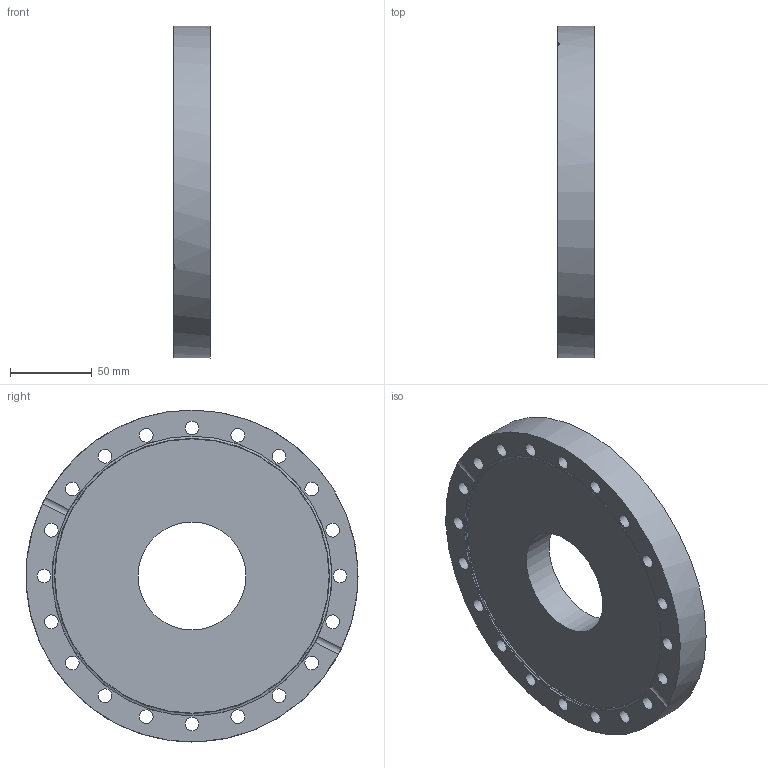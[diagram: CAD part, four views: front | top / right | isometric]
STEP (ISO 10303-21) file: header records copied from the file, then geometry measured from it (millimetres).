
FILE_DESCRIPTION( ( 'Unknown' ), '1' );
FILE_NAME( 'X:/Daten ( aktueller Bestand )/Projekte und Zeichnungen/Solid Edge/15 CF Bauteile/CF-Reduzierflansch/7547.stp', 'Unknown', ( 'Unknown' ), ( 'Unknown' ), 'XStep 1.0', 'Unknown', ' ' );
FILE_SCHEMA( ( 'automotive_design' ) );
Length unit declared in the file: millimetre
Products named in the file (1): 1
Bounding box: 22.3 x 203 x 203 mm (x, y, z)
Volume: 591861.4 mm3; surface area: 88052.9 mm2
Topology: 1 solids, 1 shells, 51 faces, 136 edges, 96 vertices
Faces by surface type: cylinder 34, plane 13, cone 4
Full cylindrical faces by diameter (mm): 6.647 x8, 8.4 x20, 66 x1, 82 x1, 171 x1, 203 x1
Entity records: 1838 total; most frequent: CARTESIAN_POINT 272, DIRECTION 248, ORIENTED_EDGE 156, EDGE_LOOP 138, AXIS2_PLACEMENT_3D 122, FACE_OUTER_BOUND 83, EDGE_CURVE 78, VERTEX_POINT 74
